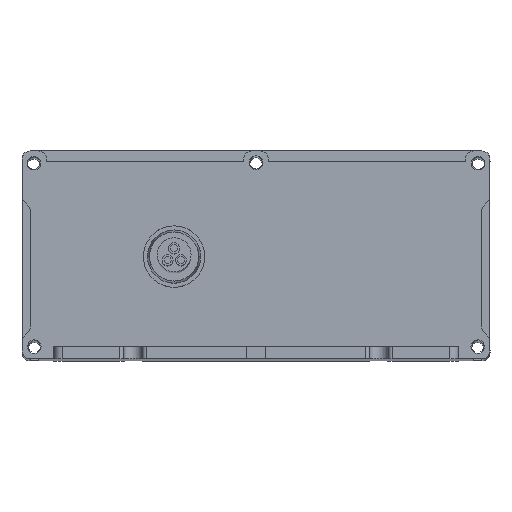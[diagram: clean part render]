
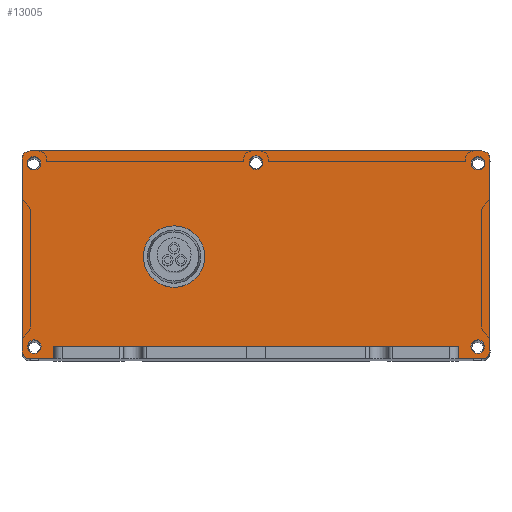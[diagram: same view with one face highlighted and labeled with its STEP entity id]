
A CAD part, top view. The second image highlights one B-rep face of the part: STEP entity #13005.
In plain terms, the highlighted planar face has unit normal (0, 0, 1).
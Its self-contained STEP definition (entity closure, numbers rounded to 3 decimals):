
#12079=DIRECTION('',(1.,0.,0.));
#12080=VECTOR('',#12079,98.7);
#12081=CARTESIAN_POINT('',(-49.35,3.,140.35));
#12082=LINE('',#12081,#12080);
#12156=DIRECTION('',(0.,-1.,0.));
#12157=VECTOR('',#12156,3.);
#12158=CARTESIAN_POINT('',(-49.35,3.,140.35));
#12159=LINE('',#12158,#12157);
#12160=DIRECTION('',(-1.,0.,0.));
#12161=VECTOR('',#12160,5.895);
#12162=CARTESIAN_POINT('',(-49.35,0.,140.35));
#12163=LINE('',#12162,#12161);
#12164=CARTESIAN_POINT('',(-55.15,1.998,140.35));
#12165=DIRECTION('',(0.,0.,-1.));
#12166=DIRECTION('',(-0.047,-0.999,0.));
#12167=AXIS2_PLACEMENT_3D('',#12164,#12165,#12166);
#12169=DIRECTION('',(0.,1.,0.));
#12170=VECTOR('',#12169,46.802);
#12171=CARTESIAN_POINT('',(-57.15,1.998,140.35));
#12172=LINE('',#12171,#12170);
#12173=CARTESIAN_POINT('',(-55.15,48.8,140.35));
#12174=DIRECTION('',(0.,0.,-1.));
#12175=DIRECTION('',(-1.,0.,0.));
#12176=AXIS2_PLACEMENT_3D('',#12173,#12174,#12175);
#12178=DIRECTION('',(1.,0.,0.));
#12179=VECTOR('',#12178,110.3);
#12180=CARTESIAN_POINT('',(-55.15,50.8,140.35));
#12181=LINE('',#12180,#12179);
#12182=CARTESIAN_POINT('',(55.15,48.8,140.35));
#12183=DIRECTION('',(0.,0.,-1.));
#12184=DIRECTION('',(0.,1.,0.));
#12185=AXIS2_PLACEMENT_3D('',#12182,#12183,#12184);
#12187=DIRECTION('',(0.,-1.,0.));
#12188=VECTOR('',#12187,46.802);
#12189=CARTESIAN_POINT('',(57.15,48.8,140.35));
#12190=LINE('',#12189,#12188);
#12191=CARTESIAN_POINT('',(55.15,1.998,140.35));
#12192=DIRECTION('',(0.,0.,-1.));
#12193=DIRECTION('',(1.,0.,0.));
#12194=AXIS2_PLACEMENT_3D('',#12191,#12192,#12193);
#12196=DIRECTION('',(-1.,0.,0.));
#12197=VECTOR('',#12196,5.895);
#12198=CARTESIAN_POINT('',(55.245,0.,140.35));
#12199=LINE('',#12198,#12197);
#12200=CARTESIAN_POINT('',(-54.25,47.8,140.35));
#12201=DIRECTION('',(0.,0.,1.));
#12202=DIRECTION('',(1.,0.,0.));
#12203=AXIS2_PLACEMENT_3D('',#12200,#12201,#12202);
#12205=CARTESIAN_POINT('',(-54.25,47.8,140.35));
#12206=DIRECTION('',(0.,0.,1.));
#12207=DIRECTION('',(-1.,0.,0.));
#12208=AXIS2_PLACEMENT_3D('',#12205,#12206,#12207);
#12210=CARTESIAN_POINT('',(0.,47.95,140.35));
#12211=DIRECTION('',(0.,0.,1.));
#12212=DIRECTION('',(1.,0.,0.));
#12213=AXIS2_PLACEMENT_3D('',#12210,#12211,#12212);
#12215=CARTESIAN_POINT('',(0.,47.95,140.35));
#12216=DIRECTION('',(0.,0.,1.));
#12217=DIRECTION('',(-1.,0.,0.));
#12218=AXIS2_PLACEMENT_3D('',#12215,#12216,#12217);
#12220=CARTESIAN_POINT('',(54.25,47.8,140.35));
#12221=DIRECTION('',(0.,0.,1.));
#12222=DIRECTION('',(1.,0.,0.));
#12223=AXIS2_PLACEMENT_3D('',#12220,#12221,#12222);
#12225=CARTESIAN_POINT('',(54.25,47.8,140.35));
#12226=DIRECTION('',(0.,0.,1.));
#12227=DIRECTION('',(-1.,0.,0.));
#12228=AXIS2_PLACEMENT_3D('',#12225,#12226,#12227);
#12230=CARTESIAN_POINT('',(54.15,3.,140.35));
#12231=DIRECTION('',(0.,0.,1.));
#12232=DIRECTION('',(1.,0.,0.));
#12233=AXIS2_PLACEMENT_3D('',#12230,#12231,#12232);
#12235=CARTESIAN_POINT('',(54.15,3.,140.35));
#12236=DIRECTION('',(0.,0.,1.));
#12237=DIRECTION('',(-1.,0.,0.));
#12238=AXIS2_PLACEMENT_3D('',#12235,#12236,#12237);
#12240=CARTESIAN_POINT('',(-54.15,3.,140.35));
#12241=DIRECTION('',(0.,0.,1.));
#12242=DIRECTION('',(1.,0.,0.));
#12243=AXIS2_PLACEMENT_3D('',#12240,#12241,#12242);
#12245=CARTESIAN_POINT('',(-54.15,3.,140.35));
#12246=DIRECTION('',(0.,0.,1.));
#12247=DIRECTION('',(-1.,0.,0.));
#12248=AXIS2_PLACEMENT_3D('',#12245,#12246,#12247);
#12250=CARTESIAN_POINT('',(-20.,25.,140.35));
#12251=DIRECTION('',(0.,0.,1.));
#12252=DIRECTION('',(1.,0.,0.));
#12253=AXIS2_PLACEMENT_3D('',#12250,#12251,#12252);
#12255=CARTESIAN_POINT('',(-20.,25.,140.35));
#12256=DIRECTION('',(0.,0.,1.));
#12257=DIRECTION('',(-1.,0.,0.));
#12258=AXIS2_PLACEMENT_3D('',#12255,#12256,#12257);
#12280=DIRECTION('',(0.,-1.,0.));
#12281=VECTOR('',#12280,3.);
#12282=CARTESIAN_POINT('',(49.35,3.,140.35));
#12283=LINE('',#12282,#12281);
#12448=CARTESIAN_POINT('',(55.15,50.8,140.35));
#12449=VERTEX_POINT('',#12448);
#12450=CARTESIAN_POINT('',(-55.15,50.8,140.35));
#12451=VERTEX_POINT('',#12450);
#12452=CARTESIAN_POINT('',(57.15,48.8,140.35));
#12453=VERTEX_POINT('',#12452);
#12454=CARTESIAN_POINT('',(57.15,1.998,140.35));
#12455=VERTEX_POINT('',#12454);
#12456=CARTESIAN_POINT('',(55.245,0.,140.35));
#12457=VERTEX_POINT('',#12456);
#12480=CARTESIAN_POINT('',(49.35,0.,140.35));
#12481=VERTEX_POINT('',#12480);
#12482=CARTESIAN_POINT('',(-55.245,0.,140.35));
#12483=VERTEX_POINT('',#12482);
#12484=CARTESIAN_POINT('',(-49.35,0.,140.35));
#12485=VERTEX_POINT('',#12484);
#12530=CARTESIAN_POINT('',(-49.35,3.,140.35));
#12531=VERTEX_POINT('',#12530);
#12532=CARTESIAN_POINT('',(49.35,3.,140.35));
#12533=VERTEX_POINT('',#12532);
#12564=CARTESIAN_POINT('',(-57.15,1.998,140.35));
#12565=VERTEX_POINT('',#12564);
#12566=CARTESIAN_POINT('',(-57.15,48.8,140.35));
#12567=VERTEX_POINT('',#12566);
#12568=CARTESIAN_POINT('',(-52.6,47.8,140.35));
#12569=CARTESIAN_POINT('',(-55.9,47.8,140.35));
#12570=VERTEX_POINT('',#12568);
#12571=VERTEX_POINT('',#12569);
#12572=CARTESIAN_POINT('',(1.65,47.95,140.35));
#12573=CARTESIAN_POINT('',(-1.65,47.95,140.35));
#12574=VERTEX_POINT('',#12572);
#12575=VERTEX_POINT('',#12573);
#12576=CARTESIAN_POINT('',(55.9,47.8,140.35));
#12577=CARTESIAN_POINT('',(52.6,47.8,140.35));
#12578=VERTEX_POINT('',#12576);
#12579=VERTEX_POINT('',#12577);
#12580=CARTESIAN_POINT('',(55.8,3.,140.35));
#12581=CARTESIAN_POINT('',(52.5,3.,140.35));
#12582=VERTEX_POINT('',#12580);
#12583=VERTEX_POINT('',#12581);
#12584=CARTESIAN_POINT('',(-52.5,3.,140.35));
#12585=CARTESIAN_POINT('',(-55.8,3.,140.35));
#12586=VERTEX_POINT('',#12584);
#12587=VERTEX_POINT('',#12585);
#12588=CARTESIAN_POINT('',(-12.5,25.,140.35));
#12589=CARTESIAN_POINT('',(-27.5,25.,140.35));
#12590=VERTEX_POINT('',#12588);
#12591=VERTEX_POINT('',#12589);
#12946=CARTESIAN_POINT('',(0.,0.,140.35));
#12947=DIRECTION('',(0.,0.,1.));
#12948=DIRECTION('',(1.,0.,0.));
#12949=AXIS2_PLACEMENT_3D('',#12946,#12947,#12948);
#12950=PLANE('',#12949);
#12951=ORIENTED_EDGE('',*,*,#12868,.F.);
#12952=ORIENTED_EDGE('',*,*,#12940,.T.);
#12953=ORIENTED_EDGE('',*,*,#12742,.T.);
#12955=ORIENTED_EDGE('',*,*,#12954,.T.);
#12957=ORIENTED_EDGE('',*,*,#12956,.T.);
#12959=ORIENTED_EDGE('',*,*,#12958,.T.);
#12960=ORIENTED_EDGE('',*,*,#12660,.T.);
#12961=ORIENTED_EDGE('',*,*,#12675,.T.);
#12962=ORIENTED_EDGE('',*,*,#12689,.T.);
#12963=ORIENTED_EDGE('',*,*,#12703,.T.);
#12964=ORIENTED_EDGE('',*,*,#12736,.T.);
#12966=ORIENTED_EDGE('',*,*,#12965,.F.);
#12967=EDGE_LOOP('',(#12951,#12952,#12953,#12955,#12957,#12959,#12960,#12961,
#12962,#12963,#12964,#12966));
#12968=FACE_OUTER_BOUND('',#12967,.F.);
#12970=ORIENTED_EDGE('',*,*,#12969,.T.);
#12972=ORIENTED_EDGE('',*,*,#12971,.T.);
#12973=EDGE_LOOP('',(#12970,#12972));
#12974=FACE_BOUND('',#12973,.F.);
#12976=ORIENTED_EDGE('',*,*,#12975,.T.);
#12978=ORIENTED_EDGE('',*,*,#12977,.T.);
#12979=EDGE_LOOP('',(#12976,#12978));
#12980=FACE_BOUND('',#12979,.F.);
#12982=ORIENTED_EDGE('',*,*,#12981,.T.);
#12984=ORIENTED_EDGE('',*,*,#12983,.T.);
#12985=EDGE_LOOP('',(#12982,#12984));
#12986=FACE_BOUND('',#12985,.F.);
#12988=ORIENTED_EDGE('',*,*,#12987,.T.);
#12990=ORIENTED_EDGE('',*,*,#12989,.T.);
#12991=EDGE_LOOP('',(#12988,#12990));
#12992=FACE_BOUND('',#12991,.F.);
#12994=ORIENTED_EDGE('',*,*,#12993,.T.);
#12996=ORIENTED_EDGE('',*,*,#12995,.T.);
#12997=EDGE_LOOP('',(#12994,#12996));
#12998=FACE_BOUND('',#12997,.F.);
#13000=ORIENTED_EDGE('',*,*,#12999,.T.);
#13002=ORIENTED_EDGE('',*,*,#13001,.T.);
#13003=EDGE_LOOP('',(#13000,#13002));
#13004=FACE_BOUND('',#13003,.F.);
#13005=ADVANCED_FACE('',(#12968,#12974,#12980,#12986,#12992,#12998,#13004),
#12950,.T.);
#12168=CIRCLE('',#12167,2.);
#12177=CIRCLE('',#12176,2.);
#12186=CIRCLE('',#12185,2.);
#12195=CIRCLE('',#12194,2.);
#12204=CIRCLE('',#12203,1.65);
#12209=CIRCLE('',#12208,1.65);
#12214=CIRCLE('',#12213,1.65);
#12219=CIRCLE('',#12218,1.65);
#12224=CIRCLE('',#12223,1.65);
#12229=CIRCLE('',#12228,1.65);
#12234=CIRCLE('',#12233,1.65);
#12239=CIRCLE('',#12238,1.65);
#12244=CIRCLE('',#12243,1.65);
#12249=CIRCLE('',#12248,1.65);
#12254=CIRCLE('',#12253,7.5);
#12259=CIRCLE('',#12258,7.5);
#12660=EDGE_CURVE('',#12451,#12449,#12181,.T.);
#12675=EDGE_CURVE('',#12449,#12453,#12186,.T.);
#12689=EDGE_CURVE('',#12453,#12455,#12190,.T.);
#12703=EDGE_CURVE('',#12455,#12457,#12195,.T.);
#12736=EDGE_CURVE('',#12457,#12481,#12199,.T.);
#12742=EDGE_CURVE('',#12485,#12483,#12163,.T.);
#12868=EDGE_CURVE('',#12531,#12533,#12082,.T.);
#12940=EDGE_CURVE('',#12531,#12485,#12159,.T.);
#12954=EDGE_CURVE('',#12483,#12565,#12168,.T.);
#12956=EDGE_CURVE('',#12565,#12567,#12172,.T.);
#12958=EDGE_CURVE('',#12567,#12451,#12177,.T.);
#12965=EDGE_CURVE('',#12533,#12481,#12283,.T.);
#12969=EDGE_CURVE('',#12570,#12571,#12204,.T.);
#12971=EDGE_CURVE('',#12571,#12570,#12209,.T.);
#12975=EDGE_CURVE('',#12574,#12575,#12214,.T.);
#12977=EDGE_CURVE('',#12575,#12574,#12219,.T.);
#12981=EDGE_CURVE('',#12578,#12579,#12224,.T.);
#12983=EDGE_CURVE('',#12579,#12578,#12229,.T.);
#12987=EDGE_CURVE('',#12582,#12583,#12234,.T.);
#12989=EDGE_CURVE('',#12583,#12582,#12239,.T.);
#12993=EDGE_CURVE('',#12586,#12587,#12244,.T.);
#12995=EDGE_CURVE('',#12587,#12586,#12249,.T.);
#12999=EDGE_CURVE('',#12590,#12591,#12254,.T.);
#13001=EDGE_CURVE('',#12591,#12590,#12259,.T.);
